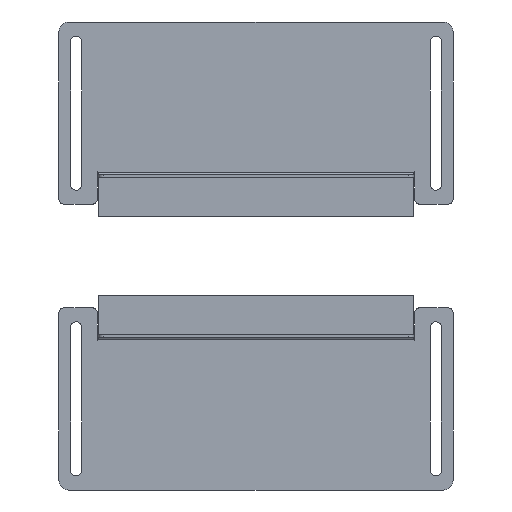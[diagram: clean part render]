
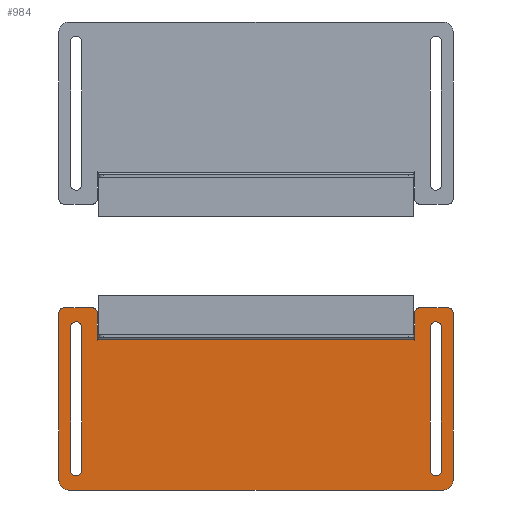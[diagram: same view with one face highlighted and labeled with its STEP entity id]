
A CAD part, front view. The second image highlights one B-rep face of the part: STEP entity #984.
In plain terms, the highlighted planar face has unit normal (0, -1, 0).
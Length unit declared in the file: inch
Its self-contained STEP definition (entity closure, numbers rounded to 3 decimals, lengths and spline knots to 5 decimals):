
#204=CARTESIAN_POINT('',(-4.5625,-0.075,-0.5));
#205=DIRECTION('',(0.,1.,0.));
#206=DIRECTION('',(-1.,0.,0.));
#207=AXIS2_PLACEMENT_3D('',#204,#205,#206);
#212=DIRECTION('',(0.,0.,-1.));
#213=VECTOR('',#212,3.625);
#214=CARTESIAN_POINT('',(-4.703,-0.075,-0.5));
#215=LINE('',#214,#213);
#219=CARTESIAN_POINT('',(-4.5625,-0.075,-4.125));
#220=DIRECTION('',(0.,1.,0.));
#221=DIRECTION('',(1.,0.,0.));
#222=AXIS2_PLACEMENT_3D('',#219,#220,#221);
#227=DIRECTION('',(0.,0.,1.));
#228=VECTOR('',#227,3.625);
#229=CARTESIAN_POINT('',(-4.422,-0.075,-4.125));
#230=LINE('',#229,#228);
#234=DIRECTION('',(0.,0.,-1.));
#235=VECTOR('',#234,3.625);
#236=CARTESIAN_POINT('',(4.422,-0.075,-0.5));
#237=LINE('',#236,#235);
#241=CARTESIAN_POINT('',(4.5625,-0.075,-4.125));
#242=DIRECTION('',(0.,1.,0.));
#243=DIRECTION('',(1.,0.,0.));
#244=AXIS2_PLACEMENT_3D('',#241,#242,#243);
#249=DIRECTION('',(0.,0.,1.));
#250=VECTOR('',#249,3.625);
#251=CARTESIAN_POINT('',(4.703,-0.075,-4.125));
#252=LINE('',#251,#250);
#256=CARTESIAN_POINT('',(4.5625,-0.075,-0.5));
#257=DIRECTION('',(0.,1.,0.));
#258=DIRECTION('',(-1.,0.,0.));
#259=AXIS2_PLACEMENT_3D('',#256,#257,#258);
#264=CARTESIAN_POINT('',(4.75,-0.075,-4.375));
#265=DIRECTION('',(0.,-1.,0.));
#266=DIRECTION('',(0.,0.,-1.));
#267=AXIS2_PLACEMENT_3D('',#264,#265,#266);
#272=DIRECTION('',(-1.,0.,0.));
#273=VECTOR('',#272,9.5);
#274=CARTESIAN_POINT('',(4.75,-0.075,-4.625));
#275=LINE('',#274,#273);
#279=CARTESIAN_POINT('',(-4.75,-0.075,-4.375));
#280=DIRECTION('',(0.,-1.,0.));
#281=DIRECTION('',(-1.,0.,0.));
#282=AXIS2_PLACEMENT_3D('',#279,#280,#281);
#287=DIRECTION('',(0.,0.,1.));
#288=VECTOR('',#287,4.25);
#289=CARTESIAN_POINT('',(-5.,-0.075,-4.375));
#290=LINE('',#289,#288);
#294=CARTESIAN_POINT('',(-4.875,-0.075,-0.125));
#295=DIRECTION('',(0.,-1.,0.));
#296=DIRECTION('',(0.,0.,1.));
#297=AXIS2_PLACEMENT_3D('',#294,#295,#296);
#302=DIRECTION('',(1.,0.,0.));
#303=VECTOR('',#302,0.71875);
#304=CARTESIAN_POINT('',(-4.875,-0.075,0.));
#305=LINE('',#304,#303);
#309=CARTESIAN_POINT('',(-4.15625,-0.075,-0.125));
#310=DIRECTION('',(0.,-1.,0.));
#311=DIRECTION('',(1.,0.,0.));
#312=AXIS2_PLACEMENT_3D('',#309,#310,#311);
#317=CARTESIAN_POINT('',(-4.01563,-0.075,-0.8045));
#318=DIRECTION('',(0.,-1.,0.));
#319=DIRECTION('',(-1.,0.,0.));
#320=AXIS2_PLACEMENT_3D('',#317,#318,#319);
#325=CARTESIAN_POINT('',(4.01563,-0.075,-0.8045));
#326=DIRECTION('',(0.,1.,0.));
#327=DIRECTION('',(1.,0.,0.));
#328=AXIS2_PLACEMENT_3D('',#325,#326,#327);
#333=CARTESIAN_POINT('',(4.15625,-0.075,-0.125));
#334=DIRECTION('',(0.,-1.,0.));
#335=DIRECTION('',(0.,0.,1.));
#336=AXIS2_PLACEMENT_3D('',#333,#334,#335);
#341=DIRECTION('',(1.,0.,0.));
#342=VECTOR('',#341,0.71875);
#343=CARTESIAN_POINT('',(4.15625,-0.075,0.));
#344=LINE('',#343,#342);
#348=CARTESIAN_POINT('',(4.875,-0.075,-0.125));
#349=DIRECTION('',(0.,-1.,0.));
#350=DIRECTION('',(1.,0.,0.));
#351=AXIS2_PLACEMENT_3D('',#348,#349,#350);
#356=DIRECTION('',(0.,0.,-1.));
#357=VECTOR('',#356,4.25);
#358=CARTESIAN_POINT('',(5.,-0.075,-0.125));
#359=LINE('',#358,#357);
#454=DIRECTION('',(0.,0.,1.));
#455=VECTOR('',#454,0.6795);
#456=CARTESIAN_POINT('',(-4.03125,-0.075,-0.8045));
#457=LINE('',#456,#455);
#563=DIRECTION('',(0.,0.,-1.));
#564=VECTOR('',#563,0.6795);
#565=CARTESIAN_POINT('',(4.03125,-0.075,-0.125));
#566=LINE('',#565,#564);
#620=DIRECTION('',(1.,0.,0.));
#621=VECTOR('',#620,8.);
#622=CARTESIAN_POINT('',(-4.,-0.075,-0.8045));
#623=LINE('',#622,#621);
#705=CARTESIAN_POINT('',(-4.03125,-0.075,-0.8045));
#706=CARTESIAN_POINT('',(-4.,-0.075,-0.8045));
#707=VERTEX_POINT('',#705);
#708=VERTEX_POINT('',#706);
#713=CARTESIAN_POINT('',(4.03125,-0.075,-0.8045));
#714=CARTESIAN_POINT('',(4.,-0.075,-0.8045));
#715=VERTEX_POINT('',#713);
#716=VERTEX_POINT('',#714);
#733=CARTESIAN_POINT('',(4.422,-0.075,-0.5));
#734=CARTESIAN_POINT('',(4.422,-0.075,-4.125));
#735=VERTEX_POINT('',#733);
#736=VERTEX_POINT('',#734);
#737=CARTESIAN_POINT('',(4.703,-0.075,-4.125));
#738=VERTEX_POINT('',#737);
#739=CARTESIAN_POINT('',(4.703,-0.075,-0.5));
#740=VERTEX_POINT('',#739);
#741=CARTESIAN_POINT('',(-4.703,-0.075,-0.5));
#742=CARTESIAN_POINT('',(-4.422,-0.075,-0.5));
#743=VERTEX_POINT('',#741);
#744=VERTEX_POINT('',#742);
#745=CARTESIAN_POINT('',(-4.703,-0.075,-4.125));
#746=VERTEX_POINT('',#745);
#747=CARTESIAN_POINT('',(-4.422,-0.075,-4.125));
#748=VERTEX_POINT('',#747);
#753=CARTESIAN_POINT('',(4.75,-0.075,-4.625));
#754=VERTEX_POINT('',#753);
#755=CARTESIAN_POINT('',(5.,-0.075,-4.375));
#756=VERTEX_POINT('',#755);
#761=CARTESIAN_POINT('',(-5.,-0.075,-4.375));
#762=VERTEX_POINT('',#761);
#763=CARTESIAN_POINT('',(-4.75,-0.075,-4.625));
#764=VERTEX_POINT('',#763);
#769=CARTESIAN_POINT('',(5.,-0.075,-0.125));
#770=VERTEX_POINT('',#769);
#771=CARTESIAN_POINT('',(-5.,-0.075,-0.125));
#772=VERTEX_POINT('',#771);
#785=CARTESIAN_POINT('',(4.15625,-0.075,0.));
#786=VERTEX_POINT('',#785);
#787=CARTESIAN_POINT('',(4.03125,-0.075,-0.125));
#788=VERTEX_POINT('',#787);
#791=CARTESIAN_POINT('',(4.875,-0.075,0.));
#792=VERTEX_POINT('',#791);
#805=CARTESIAN_POINT('',(-4.03125,-0.075,-0.125));
#806=VERTEX_POINT('',#805);
#807=CARTESIAN_POINT('',(-4.15625,-0.075,0.));
#808=VERTEX_POINT('',#807);
#811=CARTESIAN_POINT('',(-4.875,-0.075,0.));
#812=VERTEX_POINT('',#811);
#929=CARTESIAN_POINT('',(0.,-0.075,0.));
#930=DIRECTION('',(0.,1.,0.));
#931=DIRECTION('',(1.,0.,0.));
#932=AXIS2_PLACEMENT_3D('',#929,#930,#931);
#933=PLANE('',#932);
#935=ORIENTED_EDGE('',*,*,#934,.F.);
#937=ORIENTED_EDGE('',*,*,#936,.T.);
#939=ORIENTED_EDGE('',*,*,#938,.F.);
#941=ORIENTED_EDGE('',*,*,#940,.T.);
#943=ORIENTED_EDGE('',*,*,#942,.F.);
#945=ORIENTED_EDGE('',*,*,#944,.T.);
#947=ORIENTED_EDGE('',*,*,#946,.F.);
#949=ORIENTED_EDGE('',*,*,#948,.F.);
#951=ORIENTED_EDGE('',*,*,#950,.T.);
#953=ORIENTED_EDGE('',*,*,#952,.T.);
#955=ORIENTED_EDGE('',*,*,#954,.F.);
#957=ORIENTED_EDGE('',*,*,#956,.F.);
#959=ORIENTED_EDGE('',*,*,#958,.F.);
#961=ORIENTED_EDGE('',*,*,#960,.T.);
#963=ORIENTED_EDGE('',*,*,#962,.F.);
#965=ORIENTED_EDGE('',*,*,#964,.T.);
#966=EDGE_LOOP('',(#935,#937,#939,#941,#943,#945,#947,#949,#951,#953,#955,#957,
#959,#961,#963,#965));
#967=FACE_OUTER_BOUND('',#966,.F.);
#968=ORIENTED_EDGE('',*,*,#881,.T.);
#969=ORIENTED_EDGE('',*,*,#896,.F.);
#970=ORIENTED_EDGE('',*,*,#910,.T.);
#971=ORIENTED_EDGE('',*,*,#923,.F.);
#972=EDGE_LOOP('',(#968,#969,#970,#971));
#973=FACE_BOUND('',#972,.F.);
#975=ORIENTED_EDGE('',*,*,#974,.F.);
#977=ORIENTED_EDGE('',*,*,#976,.T.);
#979=ORIENTED_EDGE('',*,*,#978,.F.);
#981=ORIENTED_EDGE('',*,*,#980,.T.);
#982=EDGE_LOOP('',(#975,#977,#979,#981));
#983=FACE_BOUND('',#982,.F.);
#208=CIRCLE('',#207,0.1405);
#223=CIRCLE('',#222,0.1405);
#245=CIRCLE('',#244,0.1405);
#260=CIRCLE('',#259,0.1405);
#268=CIRCLE('',#267,0.25);
#283=CIRCLE('',#282,0.25);
#298=CIRCLE('',#297,0.125);
#313=CIRCLE('',#312,0.125);
#321=CIRCLE('',#320,0.01563);
#329=CIRCLE('',#328,0.01563);
#337=CIRCLE('',#336,0.125);
#352=CIRCLE('',#351,0.125);
#881=EDGE_CURVE('',#735,#736,#237,.T.);
#896=EDGE_CURVE('',#738,#736,#245,.T.);
#910=EDGE_CURVE('',#738,#740,#252,.T.);
#923=EDGE_CURVE('',#735,#740,#260,.T.);
#934=EDGE_CURVE('',#754,#756,#268,.T.);
#936=EDGE_CURVE('',#754,#764,#275,.T.);
#938=EDGE_CURVE('',#762,#764,#283,.T.);
#940=EDGE_CURVE('',#762,#772,#290,.T.);
#942=EDGE_CURVE('',#812,#772,#298,.T.);
#944=EDGE_CURVE('',#812,#808,#305,.T.);
#946=EDGE_CURVE('',#806,#808,#313,.T.);
#948=EDGE_CURVE('',#707,#806,#457,.T.);
#950=EDGE_CURVE('',#707,#708,#321,.T.);
#952=EDGE_CURVE('',#708,#716,#623,.T.);
#954=EDGE_CURVE('',#715,#716,#329,.T.);
#956=EDGE_CURVE('',#788,#715,#566,.T.);
#958=EDGE_CURVE('',#786,#788,#337,.T.);
#960=EDGE_CURVE('',#786,#792,#344,.T.);
#962=EDGE_CURVE('',#770,#792,#352,.T.);
#964=EDGE_CURVE('',#770,#756,#359,.T.);
#974=EDGE_CURVE('',#743,#744,#208,.T.);
#976=EDGE_CURVE('',#743,#746,#215,.T.);
#978=EDGE_CURVE('',#748,#746,#223,.T.);
#980=EDGE_CURVE('',#748,#744,#230,.T.);
#984=ADVANCED_FACE('',(#967,#973,#983),#933,.F.);
